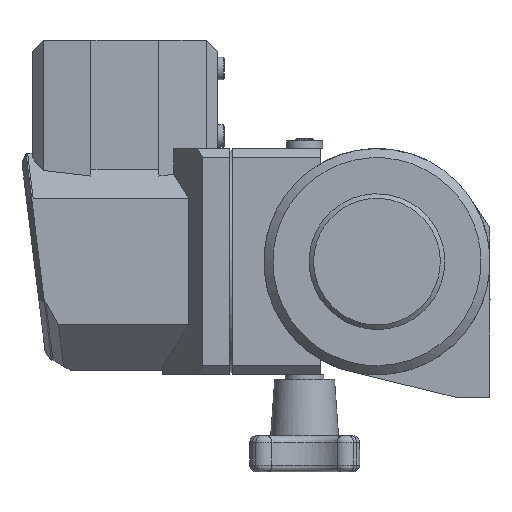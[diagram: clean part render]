
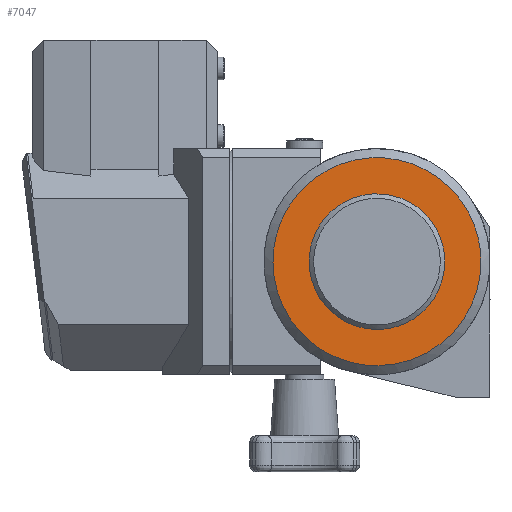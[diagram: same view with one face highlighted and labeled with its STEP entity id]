
A CAD part, left-side view. The second image highlights one B-rep face of the part: STEP entity #7047.
In plain terms, the highlighted free-form (B-spline) face has degree [1, 1] with [2, 2] control points.
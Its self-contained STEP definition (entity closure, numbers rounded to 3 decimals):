
#6990=CARTESIAN_POINT('V237',(-55.5,
   -33.5,-30.0));
#6991=VERTEX_POINT('V237',#6990);
#6997=CARTESIAN_POINT('E347',(-55.5,
   -33.5,-30.0));
#6998=CARTESIAN_POINT('E347',(-55.5,18.462,
   -30.0));
#6999=CARTESIAN_POINT('E347',(-55.5,-7.519,
   15.0));
#7000=CARTESIAN_POINT('E347',(-55.5,
   -33.5,60.0));
#7001=CARTESIAN_POINT('E347',(-55.5,
   -59.481,15.0));
#7002=CARTESIAN_POINT('E347',(-55.5,
   -85.462,-30.0));
#7003=CARTESIAN_POINT('E347',(-55.5,
   -33.5,-30.0));
#7011=(BOUNDED_CURVE()B_SPLINE_CURVE(2,(#6997,#6998,#6999,#7000,
   #7001,#7002,#7003),.CIRCULAR_ARC.,.T.,.U.)
   B_SPLINE_CURVE_WITH_KNOTS((3,2,2,3),(0.0,17.321,
   34.641,51.962),.UNSPECIFIED.)CURVE()
   GEOMETRIC_REPRESENTATION_ITEM()RATIONAL_B_SPLINE_CURVE((1.0,
   0.5,1.0,0.5,1.0,0.5,1.0)
   )REPRESENTATION_ITEM('E347'));
#7012=EDGE_CURVE('E347',#6991,#6991,#7011,.T.);
#7018=CARTESIAN_POINT('F116',(-55.5,20.936,
   55.0));
#7019=CARTESIAN_POINT('F116',(-55.5,20.936,
   -55.0));
#7020=CARTESIAN_POINT('F116',(-55.5,
   -87.936,55.0));
#7021=CARTESIAN_POINT('F116',(-55.5,
   -87.936,-55.0));
#7022=QUASI_UNIFORM_SURFACE('F116',1,1,((#7018,#7020),(#7019,
   #7021)),.PLANE_SURF.,.F.,.F.,.U.);
#7023=CARTESIAN_POINT('V233',(-55.5,
   -33.5,-46.0));
#7024=VERTEX_POINT('V233',#7023);
#7025=CARTESIAN_POINT('E341',(-55.5,
   -33.5,-46.0));
#7026=CARTESIAN_POINT('E341',(-55.5,
   -113.174,-46.0));
#7027=CARTESIAN_POINT('E341',(-55.5,
   -73.337,23.0));
#7028=CARTESIAN_POINT('E341',(-55.5,
   -33.5,92.0));
#7029=CARTESIAN_POINT('E341',(-55.5,6.337,
   23.0));
#7030=CARTESIAN_POINT('E341',(-55.5,46.174,
   -46.0));
#7031=CARTESIAN_POINT('E341',(-55.5,
   -33.5,-46.0));
#7039=(BOUNDED_CURVE()B_SPLINE_CURVE(2,(#7025,#7026,#7027,#7028,
   #7029,#7030,#7031),.CIRCULAR_ARC.,.T.,.U.)
   B_SPLINE_CURVE_WITH_KNOTS((3,2,2,3),(2.0,19.031,
   36.062,53.093),.UNSPECIFIED.)CURVE()
   GEOMETRIC_REPRESENTATION_ITEM()RATIONAL_B_SPLINE_CURVE((1.0,
   0.5,1.0,0.5,1.0,0.5,1.0)
   )REPRESENTATION_ITEM('E341'));
#7040=EDGE_CURVE('E341',#7024,#7024,#7039,.T.);
#7041=ORIENTED_EDGE('E341',*,*,#7040,.T.);
#7042=EDGE_LOOP('F116',(#7041));
#7043=FACE_OUTER_BOUND('F116',#7042,.T.);
#7044=ORIENTED_EDGE('E347',*,*,#7012,.T.);
#7045=EDGE_LOOP('F116',(#7044));
#7046=FACE_BOUND('F116',#7045,.T.);
#7047=ADVANCED_FACE('F116',(#7043,#7046),#7022,.T.);
